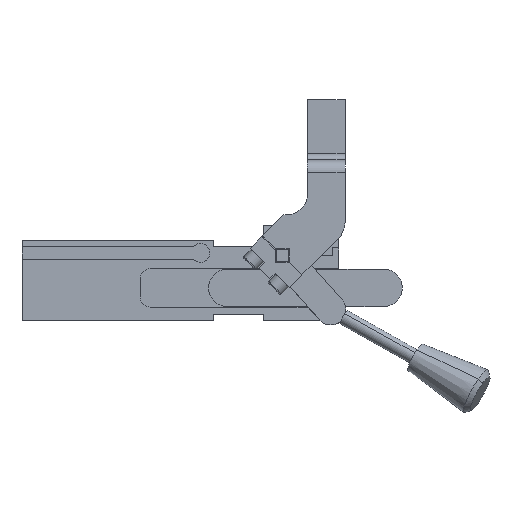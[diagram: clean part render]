
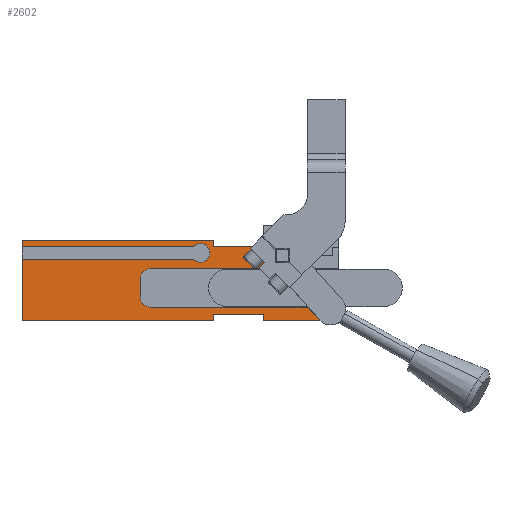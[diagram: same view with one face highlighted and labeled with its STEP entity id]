
A CAD part, top view. The second image highlights one B-rep face of the part: STEP entity #2602.
In plain terms, the highlighted planar face has unit normal (0, 0, 1).
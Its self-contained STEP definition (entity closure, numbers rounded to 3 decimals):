
#920=AXIS2_PLACEMENT_3D('Plane Axis2P3D',#917,#918,#919) ;
#2475=AXIS2_PLACEMENT_3D('Circle Axis2P3D',#2473,#2474,$) ;
#2501=AXIS2_PLACEMENT_3D('Circle Axis2P3D',#2499,#2500,$) ;
#2520=AXIS2_PLACEMENT_3D('Circle Axis2P3D',#2518,#2519,$) ;
#2546=AXIS2_PLACEMENT_3D('Circle Axis2P3D',#2544,#2545,$) ;
#2553=AXIS2_PLACEMENT_3D('Circle Axis2P3D',#2551,#2552,$) ;
#2565=AXIS2_PLACEMENT_3D('Circle Axis2P3D',#2563,#2564,$) ;
#917=CARTESIAN_POINT('Axis2P3D Location',(0.,0.,13.)) ;
#968=CARTESIAN_POINT('Vertex',(-3.313,-5.3,13.)) ;
#971=CARTESIAN_POINT('Line Origine',(-27.906,-5.3,13.)) ;
#975=CARTESIAN_POINT('Vertex',(-52.5,-5.3,13.)) ;
#1080=CARTESIAN_POINT('Vertex',(-52.5,-20.5,13.)) ;
#1083=CARTESIAN_POINT('Line Origine',(-21.13,-20.5,13.)) ;
#1087=CARTESIAN_POINT('Vertex',(10.24,-20.5,13.)) ;
#1128=CARTESIAN_POINT('Vertex',(15.173,-26.,13.)) ;
#1301=CARTESIAN_POINT('Vertex',(-27.5,3.5,13.)) ;
#1304=CARTESIAN_POINT('Line Origine',(-17.505,3.5,13.)) ;
#1308=CARTESIAN_POINT('Vertex',(-7.51,3.5,13.)) ;
#1427=CARTESIAN_POINT('Vertex',(-27.5,6.,13.)) ;
#1430=CARTESIAN_POINT('Line Origine',(-27.5,4.75,13.)) ;
#1458=CARTESIAN_POINT('Vertex',(-103.5,6.,13.)) ;
#1461=CARTESIAN_POINT('Line Origine',(-65.5,6.,13.)) ;
#1489=CARTESIAN_POINT('Vertex',(-103.5,-26.,13.)) ;
#1492=CARTESIAN_POINT('Line Origine',(-103.5,-13.8,13.)) ;
#1496=CARTESIAN_POINT('Vertex',(-103.5,-1.6,13.)) ;
#1545=CARTESIAN_POINT('Vertex',(-103.5,3.6,13.)) ;
#1548=CARTESIAN_POINT('Line Origine',(-103.5,4.8,13.)) ;
#1783=CARTESIAN_POINT('Vertex',(-27.5,-26.,13.)) ;
#1786=CARTESIAN_POINT('Line Origine',(-65.5,-26.,13.)) ;
#1845=CARTESIAN_POINT('Vertex',(-27.5,-23.5,13.)) ;
#1848=CARTESIAN_POINT('Line Origine',(-27.5,-24.75,13.)) ;
#1876=CARTESIAN_POINT('Vertex',(-7.5,-23.5,13.)) ;
#1879=CARTESIAN_POINT('Line Origine',(-17.5,-23.5,13.)) ;
#1979=CARTESIAN_POINT('Vertex',(-7.5,-26.,13.)) ;
#1982=CARTESIAN_POINT('Line Origine',(-7.5,-24.75,13.)) ;
#2001=CARTESIAN_POINT('Line Origine',(3.836,-26.,13.)) ;
#2473=CARTESIAN_POINT('Axis2P3D Location',(-52.5,-9.3,13.)) ;
#2477=CARTESIAN_POINT('Vertex',(-56.5,-9.3,13.)) ;
#2499=CARTESIAN_POINT('Axis2P3D Location',(-52.5,-16.5,13.)) ;
#2503=CARTESIAN_POINT('Vertex',(-56.5,-16.5,13.)) ;
#2506=CARTESIAN_POINT('Line Origine',(-56.5,-12.9,13.)) ;
#2511=CARTESIAN_POINT('Line Origine',(-3.896,-4.647,13.)) ;
#2515=CARTESIAN_POINT('Vertex',(-4.478,-3.993,13.)) ;
#2518=CARTESIAN_POINT('Axis2P3D Location',(0.,0.,13.)) ;
#2522=CARTESIAN_POINT('Vertex',(-6.,0.,13.)) ;
#2525=CARTESIAN_POINT('Line Origine',(-6.755,0.,13.)) ;
#2529=CARTESIAN_POINT('Vertex',(-7.51,0.,13.)) ;
#2532=CARTESIAN_POINT('Line Origine',(-7.51,1.75,13.)) ;
#2537=CARTESIAN_POINT('Line Origine',(-69.351,3.6,13.)) ;
#2541=CARTESIAN_POINT('Vertex',(-35.202,3.6,13.)) ;
#2544=CARTESIAN_POINT('Axis2P3D Location',(-32.5,1.,13.)) ;
#2548=CARTESIAN_POINT('Vertex',(-28.75,1.,13.)) ;
#2551=CARTESIAN_POINT('Axis2P3D Location',(-32.5,1.,13.)) ;
#2555=CARTESIAN_POINT('Vertex',(-35.202,-1.6,13.)) ;
#2558=CARTESIAN_POINT('Line Origine',(-69.351,-1.6,13.)) ;
#2563=CARTESIAN_POINT('Axis2P3D Location',(19.3,-21.645,13.)) ;
#2567=CARTESIAN_POINT('Vertex',(14.822,-25.638,13.)) ;
#2570=CARTESIAN_POINT('Line Origine',(12.531,-23.069,13.)) ;
#918=DIRECTION('Axis2P3D Direction',(0.,0.,1.)) ;
#919=DIRECTION('Axis2P3D XDirection',(1.,0.,0.)) ;
#972=DIRECTION('Vector Direction',(1.,0.,0.)) ;
#1084=DIRECTION('Vector Direction',(-1.,0.,0.)) ;
#1305=DIRECTION('Vector Direction',(-1.,0.,0.)) ;
#1431=DIRECTION('Vector Direction',(0.,1.,0.)) ;
#1462=DIRECTION('Vector Direction',(-1.,0.,0.)) ;
#1493=DIRECTION('Vector Direction',(0.,-1.,0.)) ;
#1549=DIRECTION('Vector Direction',(0.,-1.,0.)) ;
#1787=DIRECTION('Vector Direction',(1.,0.,0.)) ;
#1849=DIRECTION('Vector Direction',(0.,1.,0.)) ;
#1880=DIRECTION('Vector Direction',(1.,0.,0.)) ;
#1983=DIRECTION('Vector Direction',(0.,-1.,0.)) ;
#2002=DIRECTION('Vector Direction',(1.,0.,0.)) ;
#2474=DIRECTION('Axis2P3D Direction',(0.,0.,1.)) ;
#2500=DIRECTION('Axis2P3D Direction',(0.,0.,1.)) ;
#2507=DIRECTION('Vector Direction',(0.,1.,0.)) ;
#2512=DIRECTION('Vector Direction',(-0.666,0.746,0.)) ;
#2519=DIRECTION('Axis2P3D Direction',(0.,0.,1.)) ;
#2526=DIRECTION('Vector Direction',(1.,0.,0.)) ;
#2533=DIRECTION('Vector Direction',(0.,-1.,0.)) ;
#2538=DIRECTION('Vector Direction',(1.,0.,0.)) ;
#2545=DIRECTION('Axis2P3D Direction',(0.,0.,1.)) ;
#2552=DIRECTION('Axis2P3D Direction',(0.,0.,1.)) ;
#2559=DIRECTION('Vector Direction',(1.,0.,0.)) ;
#2564=DIRECTION('Axis2P3D Direction',(0.,0.,1.)) ;
#2571=DIRECTION('Vector Direction',(-0.666,0.746,0.)) ;
#973=VECTOR('Line Direction',#972,1.) ;
#1085=VECTOR('Line Direction',#1084,1.) ;
#1306=VECTOR('Line Direction',#1305,1.) ;
#1432=VECTOR('Line Direction',#1431,1.) ;
#1463=VECTOR('Line Direction',#1462,1.) ;
#1494=VECTOR('Line Direction',#1493,1.) ;
#1550=VECTOR('Line Direction',#1549,1.) ;
#1788=VECTOR('Line Direction',#1787,1.) ;
#1850=VECTOR('Line Direction',#1849,1.) ;
#1881=VECTOR('Line Direction',#1880,1.) ;
#1984=VECTOR('Line Direction',#1983,1.) ;
#2003=VECTOR('Line Direction',#2002,1.) ;
#2508=VECTOR('Line Direction',#2507,1.) ;
#2513=VECTOR('Line Direction',#2512,1.) ;
#2527=VECTOR('Line Direction',#2526,1.) ;
#2534=VECTOR('Line Direction',#2533,1.) ;
#2539=VECTOR('Line Direction',#2538,1.) ;
#2560=VECTOR('Line Direction',#2559,1.) ;
#2572=VECTOR('Line Direction',#2571,1.) ;
#2576=ORIENTED_EDGE('',*,*,#1089,.F.) ;
#2577=ORIENTED_EDGE('',*,*,#2505,.F.) ;
#2578=ORIENTED_EDGE('',*,*,#2510,.F.) ;
#2579=ORIENTED_EDGE('',*,*,#2479,.F.) ;
#2580=ORIENTED_EDGE('',*,*,#977,.F.) ;
#2581=ORIENTED_EDGE('',*,*,#2517,.F.) ;
#2582=ORIENTED_EDGE('',*,*,#2524,.F.) ;
#2583=ORIENTED_EDGE('',*,*,#2531,.F.) ;
#2584=ORIENTED_EDGE('',*,*,#2536,.T.) ;
#2585=ORIENTED_EDGE('',*,*,#1310,.T.) ;
#2586=ORIENTED_EDGE('',*,*,#1434,.T.) ;
#2587=ORIENTED_EDGE('',*,*,#1465,.T.) ;
#2588=ORIENTED_EDGE('',*,*,#1552,.T.) ;
#2589=ORIENTED_EDGE('',*,*,#2543,.T.) ;
#2590=ORIENTED_EDGE('',*,*,#2550,.F.) ;
#2591=ORIENTED_EDGE('',*,*,#2557,.F.) ;
#2592=ORIENTED_EDGE('',*,*,#2562,.F.) ;
#2593=ORIENTED_EDGE('',*,*,#1498,.T.) ;
#2594=ORIENTED_EDGE('',*,*,#1790,.T.) ;
#2595=ORIENTED_EDGE('',*,*,#1852,.T.) ;
#2596=ORIENTED_EDGE('',*,*,#1883,.T.) ;
#2597=ORIENTED_EDGE('',*,*,#1986,.T.) ;
#2598=ORIENTED_EDGE('',*,*,#2005,.T.) ;
#2599=ORIENTED_EDGE('',*,*,#2569,.F.) ;
#2600=ORIENTED_EDGE('',*,*,#2574,.F.) ;
#2602=ADVANCED_FACE('K_16_1_ZL_A00_T03_TUENKERS',(#2601),#921,.T.) ;
#2476=CIRCLE('generated circle',#2475,4.) ;
#2502=CIRCLE('generated circle',#2501,4.) ;
#2521=CIRCLE('generated circle',#2520,6.) ;
#2547=CIRCLE('generated circle',#2546,3.75) ;
#2554=CIRCLE('generated circle',#2553,3.75) ;
#2566=CIRCLE('generated circle',#2565,6.) ;
#977=EDGE_CURVE('',#969,#976,#974,.F.) ;
#1089=EDGE_CURVE('',#1081,#1088,#1086,.F.) ;
#1310=EDGE_CURVE('',#1309,#1302,#1307,.T.) ;
#1434=EDGE_CURVE('',#1302,#1428,#1433,.T.) ;
#1465=EDGE_CURVE('',#1428,#1459,#1464,.T.) ;
#1498=EDGE_CURVE('',#1497,#1490,#1495,.T.) ;
#1552=EDGE_CURVE('',#1459,#1546,#1551,.T.) ;
#1790=EDGE_CURVE('',#1490,#1784,#1789,.T.) ;
#1852=EDGE_CURVE('',#1784,#1846,#1851,.T.) ;
#1883=EDGE_CURVE('',#1846,#1877,#1882,.T.) ;
#1986=EDGE_CURVE('',#1877,#1980,#1985,.T.) ;
#2005=EDGE_CURVE('',#1980,#1129,#2004,.T.) ;
#2479=EDGE_CURVE('',#976,#2478,#2476,.T.) ;
#2505=EDGE_CURVE('',#2504,#1081,#2502,.T.) ;
#2510=EDGE_CURVE('',#2478,#2504,#2509,.F.) ;
#2517=EDGE_CURVE('',#2516,#969,#2514,.F.) ;
#2524=EDGE_CURVE('',#2523,#2516,#2521,.T.) ;
#2531=EDGE_CURVE('',#2530,#2523,#2528,.T.) ;
#2536=EDGE_CURVE('',#2530,#1309,#2535,.F.) ;
#2543=EDGE_CURVE('',#1546,#2542,#2540,.T.) ;
#2550=EDGE_CURVE('',#2549,#2542,#2547,.T.) ;
#2557=EDGE_CURVE('',#2556,#2549,#2554,.T.) ;
#2562=EDGE_CURVE('',#1497,#2556,#2561,.T.) ;
#2569=EDGE_CURVE('',#2568,#1129,#2566,.T.) ;
#2574=EDGE_CURVE('',#1088,#2568,#2573,.F.) ;
#2575=EDGE_LOOP('',(#2576,#2577,#2578,#2579,#2580,#2581,#2582,#2583,#2584,#2585,#2586,#2587,#2588,#2589,#2590,#2591,#2592,#2593,#2594,#2595,#2596,#2597,#2598,#2599,#2600)) ;
#2601=FACE_OUTER_BOUND('',#2575,.T.) ;
#974=LINE('Line',#971,#973) ;
#1086=LINE('Line',#1083,#1085) ;
#1307=LINE('Line',#1304,#1306) ;
#1433=LINE('Line',#1430,#1432) ;
#1464=LINE('Line',#1461,#1463) ;
#1495=LINE('Line',#1492,#1494) ;
#1551=LINE('Line',#1548,#1550) ;
#1789=LINE('Line',#1786,#1788) ;
#1851=LINE('Line',#1848,#1850) ;
#1882=LINE('Line',#1879,#1881) ;
#1985=LINE('Line',#1982,#1984) ;
#2004=LINE('Line',#2001,#2003) ;
#2509=LINE('Line',#2506,#2508) ;
#2514=LINE('Line',#2511,#2513) ;
#2528=LINE('Line',#2525,#2527) ;
#2535=LINE('Line',#2532,#2534) ;
#2540=LINE('Line',#2537,#2539) ;
#2561=LINE('Line',#2558,#2560) ;
#2573=LINE('Line',#2570,#2572) ;
#921=PLANE('Plane',#920) ;
#969=VERTEX_POINT('',#968) ;
#976=VERTEX_POINT('',#975) ;
#1081=VERTEX_POINT('',#1080) ;
#1088=VERTEX_POINT('',#1087) ;
#1129=VERTEX_POINT('',#1128) ;
#1302=VERTEX_POINT('',#1301) ;
#1309=VERTEX_POINT('',#1308) ;
#1428=VERTEX_POINT('',#1427) ;
#1459=VERTEX_POINT('',#1458) ;
#1490=VERTEX_POINT('',#1489) ;
#1497=VERTEX_POINT('',#1496) ;
#1546=VERTEX_POINT('',#1545) ;
#1784=VERTEX_POINT('',#1783) ;
#1846=VERTEX_POINT('',#1845) ;
#1877=VERTEX_POINT('',#1876) ;
#1980=VERTEX_POINT('',#1979) ;
#2478=VERTEX_POINT('',#2477) ;
#2504=VERTEX_POINT('',#2503) ;
#2516=VERTEX_POINT('',#2515) ;
#2523=VERTEX_POINT('',#2522) ;
#2530=VERTEX_POINT('',#2529) ;
#2542=VERTEX_POINT('',#2541) ;
#2549=VERTEX_POINT('',#2548) ;
#2556=VERTEX_POINT('',#2555) ;
#2568=VERTEX_POINT('',#2567) ;
